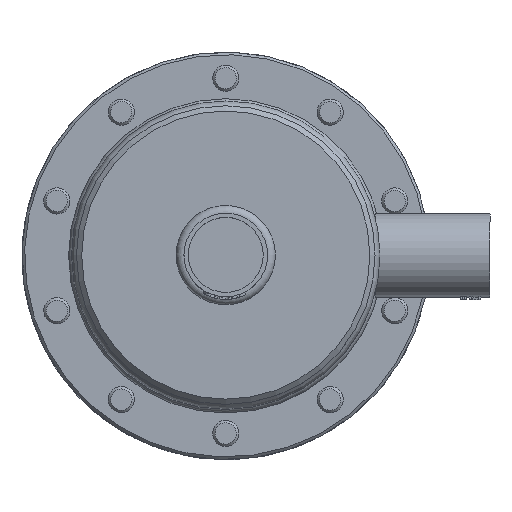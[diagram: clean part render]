
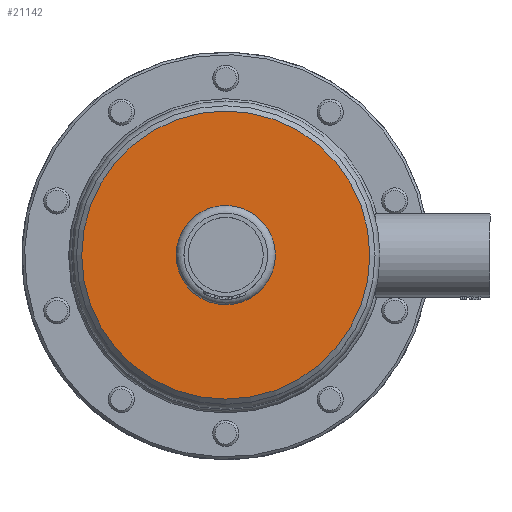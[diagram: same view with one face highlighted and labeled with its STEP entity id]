
A CAD part, top view. The second image highlights one B-rep face of the part: STEP entity #21142.
In plain terms, the highlighted planar face has unit normal (0, 0, 1).
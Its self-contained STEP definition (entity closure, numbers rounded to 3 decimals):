
#979=FACE_BOUND('',#4190,.T.);
#2837=FACE_OUTER_BOUND('',#4189,.T.);
#4189=EDGE_LOOP('',(#18543));
#4190=EDGE_LOOP('',(#18544));
#4960=CIRCLE('',#22804,19.);
#5000=CIRCLE('',#22871,55.15);
#9784=VERTEX_POINT('',#41885);
#9836=VERTEX_POINT('',#42052);
#12749=EDGE_CURVE('',#9784,#9784,#4960,.T.);
#12813=EDGE_CURVE('',#9836,#9836,#5000,.T.);
#18543=ORIENTED_EDGE('',*,*,#12813,.T.);
#18544=ORIENTED_EDGE('',*,*,#12749,.T.);
#20040=PLANE('',#22870);
#21142=ADVANCED_FACE('',(#2837,#979),#20040,.T.);
#22804=AXIS2_PLACEMENT_3D('',#41886,#27425,#27426);
#22870=AXIS2_PLACEMENT_3D('',#42051,#27569,#27570);
#22871=AXIS2_PLACEMENT_3D('',#42053,#27571,#27572);
#27425=DIRECTION('center_axis',(0.,0.,
-1.));
#27426=DIRECTION('ref_axis',(1.,0.,0.));
#27569=DIRECTION('center_axis',(0.,0.,
1.));
#27570=DIRECTION('ref_axis',(0.,1.,0.));
#27571=DIRECTION('center_axis',(0.,0.,
1.));
#27572=DIRECTION('ref_axis',(1.,0.,0.));
#41885=CARTESIAN_POINT('',(19.,0.,191.5));
#41886=CARTESIAN_POINT('Origin',(0.,0.,
191.5));
#42051=CARTESIAN_POINT('Origin',(27.575,0.,191.5));
#42052=CARTESIAN_POINT('',(55.15,0.,191.5));
#42053=CARTESIAN_POINT('Origin',(0.,0.,
191.5));
